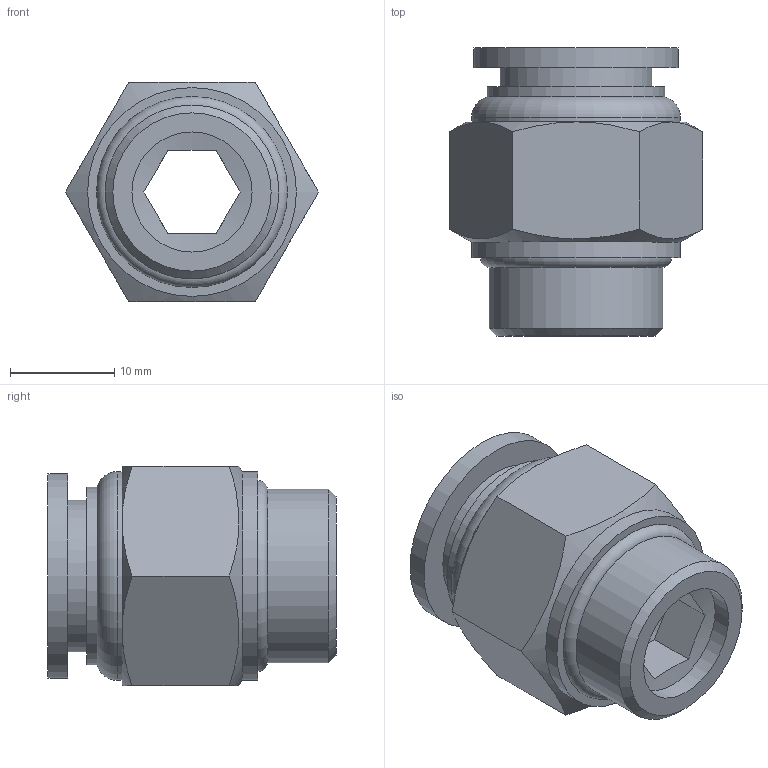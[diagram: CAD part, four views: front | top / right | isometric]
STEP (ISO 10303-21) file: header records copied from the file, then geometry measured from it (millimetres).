
FILE_DESCRIPTION(/* description */ (''),/* implementation_level */ '2;1');
FILE_NAME(/* name */ 'S:\_Tecnico\ArchivioUT\_Disegni3D ingombri\DISEGNI 3D per ingombri\RP\RP 51\RP513812.stp',/* time_stamp */ '2019-07-25T09:19:50+02:00',/* author */ ('ufficiotecnico3'),/* organization */ (''),/* preprocessor_version */ 'ST-DEVELOPER v18',/* originating_system */ 'Autodesk Inventor 2020',/* authorisation */ '');
FILE_SCHEMA (('AUTOMOTIVE_DESIGN { 1 0 10303 214 3 1 1 }'));
Length unit declared in the file: millimetre
Products named in the file (1): RP513812
Bounding box: 24.25 x 27.6 x 21 mm (x, y, z)
Volume: 5453 mm3; surface area: 3489.8 mm2
Topology: 1 solids, 1 shells, 38 faces, 99 edges, 68 vertices
Faces by surface type: plane 19, cone 9, cylinder 8, torus 2
Full cylindrical faces by diameter (mm): 11.5 x1, 12 x1, 14.5 x1, 16.662 x1, 17 x1, 19.6 x1, 20 x2
Entity records: 1216 total; most frequent: CARTESIAN_POINT 266, ORIENTED_EDGE 198, DIRECTION 187, EDGE_CURVE 99, AXIS2_PLACEMENT_3D 79, VERTEX_POINT 68, EDGE_LOOP 45, CIRCLE 40
